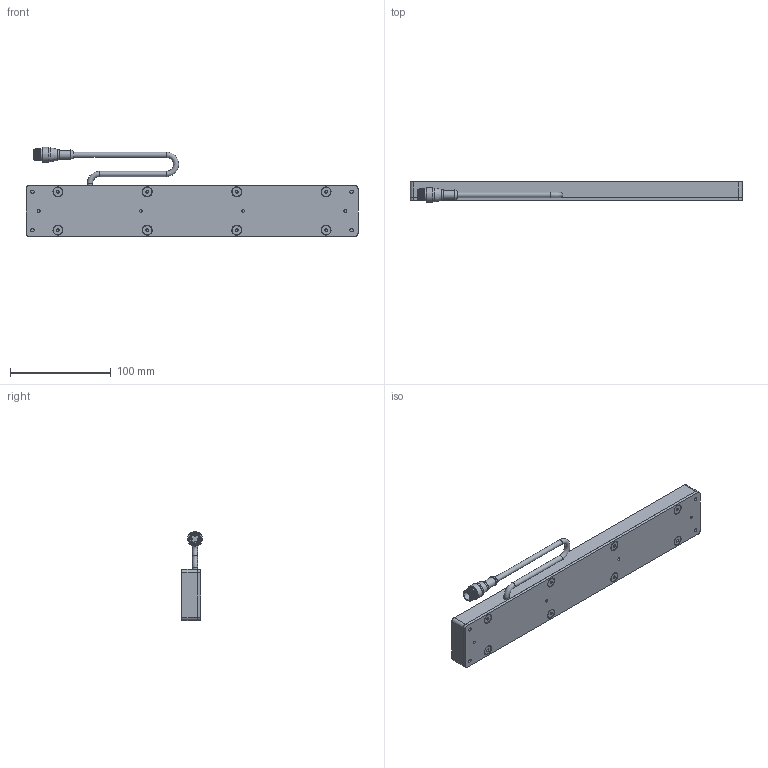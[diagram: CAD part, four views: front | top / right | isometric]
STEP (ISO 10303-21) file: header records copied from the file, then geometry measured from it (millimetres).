
FILE_DESCRIPTION (( 'STEP AP214' ), '1' );
FILE_NAME ('SBL112-XXX-WDC.STEP', '2026-04-17T16:38:06', ( '' ), ( '' ), 'SwSTEP 2.0', 'SolidWorks 2025', '' );
FILE_SCHEMA (( 'AUTOMOTIVE_DESIGN' ));
Length unit declared in the file: inch
Products named in the file (9): BackPlate BLYYXX_0112; SBL112-XXX-WDC; 8-32 x 0.375 FHCS (92210A192)_92210A192; WD-SBLYYXX_1x12; M12 Connector 4,5 and 8 pin; Hex Standoff X.X x 8-32_0.375; SC Pigtail Complete 18_4pin; Housing SBL112; MC Pigtail 24
Assembly tree (22 placements, depth 3):
  SBL112-XXX-WDC
    Housing SBL112
    BackPlate BLYYXX_0112
    WD-SBLYYXX_1x12
    8-32 x 0.375 FHCS (92210A192)_92210A192  x8
    Hex Standoff X.X x 8-32_0.375  x8
    SC Pigtail Complete 18_4pin
      MC Pigtail 24
      M12 Connector 4,5 and 8 pin
Bounding box: 330.2 x 20.61 x 88.59 mm (x, y, z)
Volume: 220147 mm3; surface area: 122086.8 mm2
Topology: 21 solids, 21 shells, 490 faces, 1092 edges, 662 vertices
Faces by surface type: plane 193, cone 139, cylinder 109, bspline 24, torus 21, sphere 4
Full cylindrical faces by diameter (mm): 0.762 x4, 2.705 x4, 3.454 x12, 4.496 x16, 5.207 x3, 6.604 x4, 6.858 x8, 8.382 x1, 8.636 x1, 9.119 x8, 10.16 x1, 10.541 x1, 11.938 x1, 13.716 x2, 14.732 x1
Entity records: 9228 total; most frequent: CARTESIAN_POINT 2983, DIRECTION 1072, ORIENTED_EDGE 788, AXIS2_PLACEMENT_3D 465, EDGE_LOOP 402, EDGE_CURVE 394, VERTEX_POINT 304, FACE_OUTER_BOUND 288
